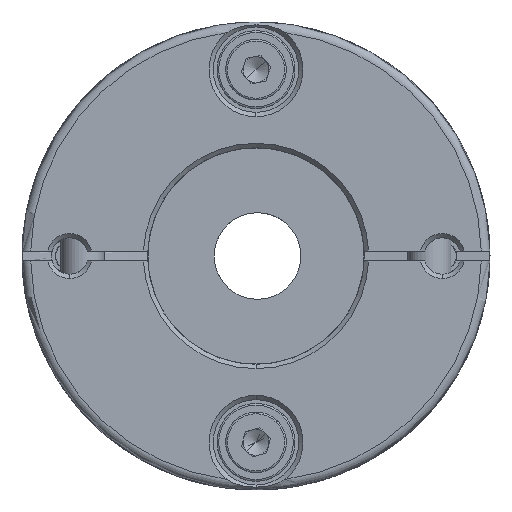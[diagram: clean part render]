
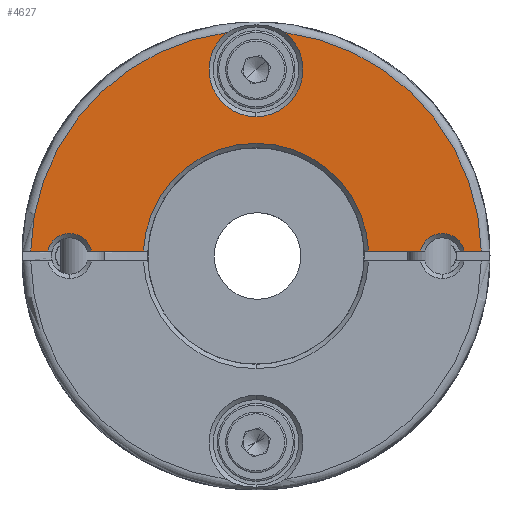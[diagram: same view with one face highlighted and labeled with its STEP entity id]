
A CAD part, front view. The second image highlights one B-rep face of the part: STEP entity #4627.
In plain terms, the highlighted planar face has unit normal (0, -1, 0).
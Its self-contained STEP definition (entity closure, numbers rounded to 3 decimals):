
#1134 = EDGE_LOOP ( 'NONE', ( #13295, #13271, #13276, #13305, #13307, #13306, #13291, #13285, #13301, #13304, #13289 ) ) ;
#3408 = VERTEX_POINT ( 'NONE', #5004 ) ;
#3410 = VERTEX_POINT ( 'NONE', #5006 ) ;
#3411 = VERTEX_POINT ( 'NONE', #5007 ) ;
#3413 = VERTEX_POINT ( 'NONE', #5009 ) ;
#3414 = VERTEX_POINT ( 'NONE', #5010 ) ;
#3416 = VERTEX_POINT ( 'NONE', #5012 ) ;
#3417 = VERTEX_POINT ( 'NONE', #5013 ) ;
#3420 = VERTEX_POINT ( 'NONE', #5016 ) ;
#3425 = VERTEX_POINT ( 'NONE', #5021 ) ;
#3571 = VERTEX_POINT ( 'NONE', #5134 ) ;
#4627 = ADVANCED_FACE ( 'NONE', ( #18663 ), #18396, .T. ) ;
#5004 = CARTESIAN_POINT ( 'NONE',  ( 12.987, -23.3, 0.575 ) ) ;
#5006 = CARTESIAN_POINT ( 'NONE',  ( -25.994, -23.3, 0.575 ) ) ;
#5007 = CARTESIAN_POINT ( 'NONE',  ( 18.964, -23.3, 0.575 ) ) ;
#5009 = CARTESIAN_POINT ( 'NONE',  ( -12.987, -23.3, 0.575 ) ) ;
#5010 = CARTESIAN_POINT ( 'NONE',  ( -18.964, -23.3, 0.575 ) ) ;
#5012 = CARTESIAN_POINT ( 'NONE',  ( 25.994, -23.3, 0.575 ) ) ;
#5013 = CARTESIAN_POINT ( 'NONE',  ( 3.325, -23.3, 25.786 ) ) ;
#5016 = CARTESIAN_POINT ( 'NONE',  ( -24.036, -23.3, 0.575 ) ) ;
#5021 = CARTESIAN_POINT ( 'NONE',  ( 24.036, -23.3, 0.575 ) ) ;
#5134 = CARTESIAN_POINT ( 'NONE',  ( -3.325, -23.3, 25.786 ) ) ;
#10845 = EDGE_CURVE ( 'NONE', #3411, #3425, #19064, .T. ) ;
#10847 = EDGE_CURVE ( 'NONE', #3417, #16215, #19065, .T. ) ;
#10850 = EDGE_CURVE ( 'NONE', #3420, #3414, #19060, .T. ) ;
#10853 = EDGE_CURVE ( 'NONE', #3414, #3413, #19062, .T. ) ;
#10854 = EDGE_CURVE ( 'NONE', #3413, #3408, #19068, .T. ) ;
#10855 = EDGE_CURVE ( 'NONE', #3408, #3411, #19070, .T. ) ;
#10856 = EDGE_CURVE ( 'NONE', #3425, #3416, #19071, .T. ) ;
#10857 = EDGE_CURVE ( 'NONE', #3416, #3417, #19073, .T. ) ;
#10858 = EDGE_CURVE ( 'NONE', #3571, #3410, #19075, .T. ) ;
#10859 = EDGE_CURVE ( 'NONE', #3410, #3420, #19076, .T. ) ;
#11614 = EDGE_CURVE ( 'NONE', #16215, #3571, #23613, .T. ) ;
#13271 = ORIENTED_EDGE ( 'NONE', *, *, #10854, .T. ) ;
#13276 = ORIENTED_EDGE ( 'NONE', *, *, #10855, .T. ) ;
#13285 = ORIENTED_EDGE ( 'NONE', *, *, #11614, .T. ) ;
#13289 = ORIENTED_EDGE ( 'NONE', *, *, #10850, .T. ) ;
#13291 = ORIENTED_EDGE ( 'NONE', *, *, #10847, .T. ) ;
#13295 = ORIENTED_EDGE ( 'NONE', *, *, #10853, .T. ) ;
#13301 = ORIENTED_EDGE ( 'NONE', *, *, #10858, .T. ) ;
#13304 = ORIENTED_EDGE ( 'NONE', *, *, #10859, .T. ) ;
#13305 = ORIENTED_EDGE ( 'NONE', *, *, #10845, .T. ) ;
#13306 = ORIENTED_EDGE ( 'NONE', *, *, #10857, .T. ) ;
#13307 = ORIENTED_EDGE ( 'NONE', *, *, #10856, .T. ) ;
#16215 = VERTEX_POINT ( 'NONE', #24860 ) ;
#16623 = AXIS2_PLACEMENT_3D ( 'NONE', #18394, #18399, #18400 ) ;
#16805 = AXIS2_PLACEMENT_3D ( 'NONE', #20621, #20622, #20623 ) ;
#16806 = AXIS2_PLACEMENT_3D ( 'NONE', #20629, #20630, #20631 ) ;
#16807 = AXIS2_PLACEMENT_3D ( 'NONE', #20647, #20648, #20649 ) ;
#16809 = AXIS2_PLACEMENT_3D ( 'NONE', #20658, #20659, #20660 ) ;
#16810 = AXIS2_PLACEMENT_3D ( 'NONE', #20665, #20666, #20667 ) ;
#16811 = AXIS2_PLACEMENT_3D ( 'NONE', #20668, #20669, #20670 ) ;
#17310 = AXIS2_PLACEMENT_3D ( 'NONE', #24191, #24192, #24193 ) ;
#18394 = CARTESIAN_POINT ( 'NONE',  ( 0., -23.3, 0. ) ) ;
#18396 = PLANE ( 'NONE',  #16623 ) ;
#18399 = DIRECTION ( 'NONE',  ( 0., -1., 0. ) ) ;
#18400 = DIRECTION ( 'NONE',  ( 0., 0., -1. ) ) ;
#18663 = FACE_OUTER_BOUND ( 'NONE', #1134, .T. ) ;
#19060 = CIRCLE ( 'NONE', #16807, 2.6 ) ;
#19062 = LINE ( 'NONE', #20652, #19069 ) ;
#19064 = CIRCLE ( 'NONE', #16805, 2.6 ) ;
#19065 = CIRCLE ( 'NONE', #16806, 5.425 ) ;
#19068 = CIRCLE ( 'NONE', #16809, 13. ) ;
#19069 = VECTOR ( 'NONE', #20624, 1000. ) ;
#19070 = LINE ( 'NONE', #20653, #19072 ) ;
#19071 = LINE ( 'NONE', #20661, #19074 ) ;
#19072 = VECTOR ( 'NONE', #20654, 1000. ) ;
#19073 = CIRCLE ( 'NONE', #16810, 26. ) ;
#19074 = VECTOR ( 'NONE', #20662, 1000. ) ;
#19075 = CIRCLE ( 'NONE', #16811, 26. ) ;
#19076 = LINE ( 'NONE', #20663, #19078 ) ;
#19078 = VECTOR ( 'NONE', #20664, 1000. ) ;
#20621 = CARTESIAN_POINT ( 'NONE',  ( 21.5, -23.3, 0. ) ) ;
#20622 = DIRECTION ( 'NONE',  ( 0., 1., 0. ) ) ;
#20623 = DIRECTION ( 'NONE',  ( 0., 0., -1. ) ) ;
#20624 = DIRECTION ( 'NONE',  ( 1., 0., 0. ) ) ;
#20629 = CARTESIAN_POINT ( 'NONE',  ( 0., -23.3, 21.5 ) ) ;
#20630 = DIRECTION ( 'NONE',  ( 0., 1., 0. ) ) ;
#20631 = DIRECTION ( 'NONE',  ( 0., 0., -1. ) ) ;
#20647 = CARTESIAN_POINT ( 'NONE',  ( -21.5, -23.3, 0. ) ) ;
#20648 = DIRECTION ( 'NONE',  ( 0., 1., 0. ) ) ;
#20649 = DIRECTION ( 'NONE',  ( 0., 0., -1. ) ) ;
#20652 = CARTESIAN_POINT ( 'NONE',  ( 0., -23.3, 0.575 ) ) ;
#20653 = CARTESIAN_POINT ( 'NONE',  ( 0., -23.3, 0.575 ) ) ;
#20654 = DIRECTION ( 'NONE',  ( 1., 0., 0. ) ) ;
#20658 = CARTESIAN_POINT ( 'NONE',  ( 0., -23.3, 0. ) ) ;
#20659 = DIRECTION ( 'NONE',  ( 0., 1., 0. ) ) ;
#20660 = DIRECTION ( 'NONE',  ( 0., 0., -1. ) ) ;
#20661 = CARTESIAN_POINT ( 'NONE',  ( 0., -23.3, 0.575 ) ) ;
#20662 = DIRECTION ( 'NONE',  ( 1., 0., 0. ) ) ;
#20663 = CARTESIAN_POINT ( 'NONE',  ( 0., -23.3, 0.575 ) ) ;
#20664 = DIRECTION ( 'NONE',  ( 1., 0., 0. ) ) ;
#20665 = CARTESIAN_POINT ( 'NONE',  ( 0., -23.3, 0. ) ) ;
#20666 = DIRECTION ( 'NONE',  ( 0., -1., 0. ) ) ;
#20667 = DIRECTION ( 'NONE',  ( 0., 0., -1. ) ) ;
#20668 = CARTESIAN_POINT ( 'NONE',  ( 0., -23.3, 0. ) ) ;
#20669 = DIRECTION ( 'NONE',  ( 0., -1., 0. ) ) ;
#20670 = DIRECTION ( 'NONE',  ( 0., 0., -1. ) ) ;
#23613 = CIRCLE ( 'NONE', #17310, 5.425 ) ;
#24191 = CARTESIAN_POINT ( 'NONE',  ( 0., -23.3, 21.5 ) ) ;
#24192 = DIRECTION ( 'NONE',  ( 0., 1., 0. ) ) ;
#24193 = DIRECTION ( 'NONE',  ( 0., 0., -1. ) ) ;
#24860 = CARTESIAN_POINT ( 'NONE',  ( 0., -23.3, 16.075 ) ) ;
